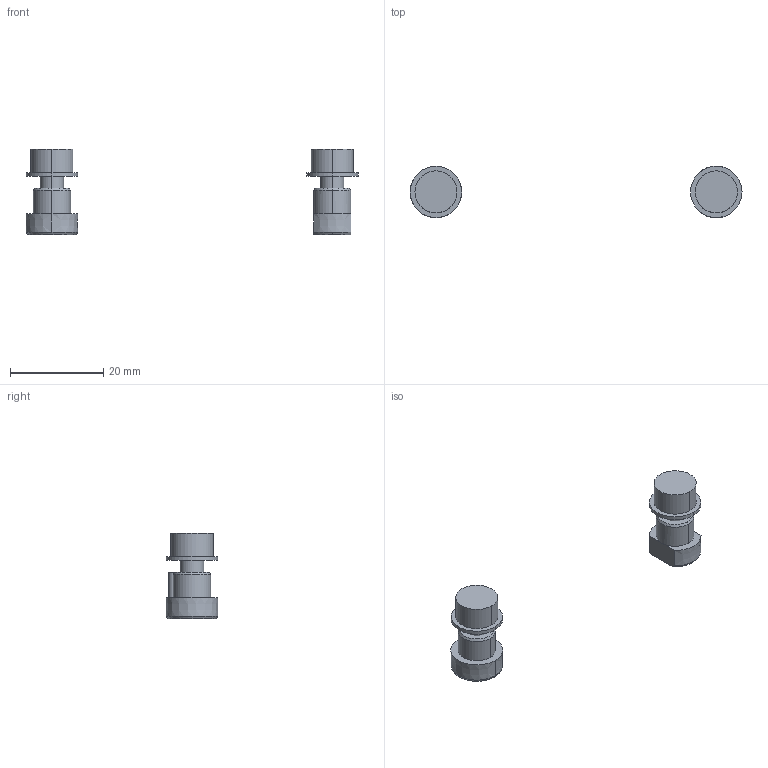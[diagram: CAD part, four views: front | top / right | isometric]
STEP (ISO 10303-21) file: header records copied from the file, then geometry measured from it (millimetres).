
FILE_DESCRIPTION(('STEP AP214'),'1');
FILE_NAME('EGT213_1702461_VOLL_UND_SCHWERTSTIFT.CATPart.stp','2015-09-14T13:13:31',('3D-Tool'),(' '),'Spatial InterOp 3D',' ',' ');
FILE_SCHEMA(('automotive_design'));
Length unit declared in the file: millimetre
Products named in the file (7): EGT213_1702461_VOLL_UND_SCHWERTSTIFT|Schraube_1|Translate.2; EGT213_1702461_VOLL_UND_SCHWERTSTIFT|Schraube_2|Translate.1; EGT213_1702461_VOLL_UND_SCHWERTSTIFT|Stift_1|Solid.12; EGT213_1702461_VOLL_UND_SCHWERTSTIFT|EGT213_VOLL_UND_SCHWERTSTIFT|Solid.13; EGT213_1702461_VOLL_UND_SCHWERTSTIFT|Unterlage_1|Translate.3; EGT213_1702461_VOLL_UND_SCHWERTSTIFT|Unterlage_2|Translate.4; EGT213_1702461_VOLL_UND_SCHWERTSTIFT|Rohr|Solid.16
Bounding box: 71.05 x 11.1 x 18.3 mm (x, y, z)
Volume: 2278.4 mm3; surface area: 2548.9 mm2
Topology: 7 solids, 7 shells, 65 faces, 146 edges, 96 vertices
Faces by surface type: cylinder 30, plane 20, cone 15
Entity records: 2573 total; most frequent: CARTESIAN_POINT 370, DIRECTION 360, ORIENTED_EDGE 284, AXIS2_PLACEMENT_3D 156, EDGE_CURVE 142, VERTEX_POINT 94, CIRCLE 84, EDGE_LOOP 80
